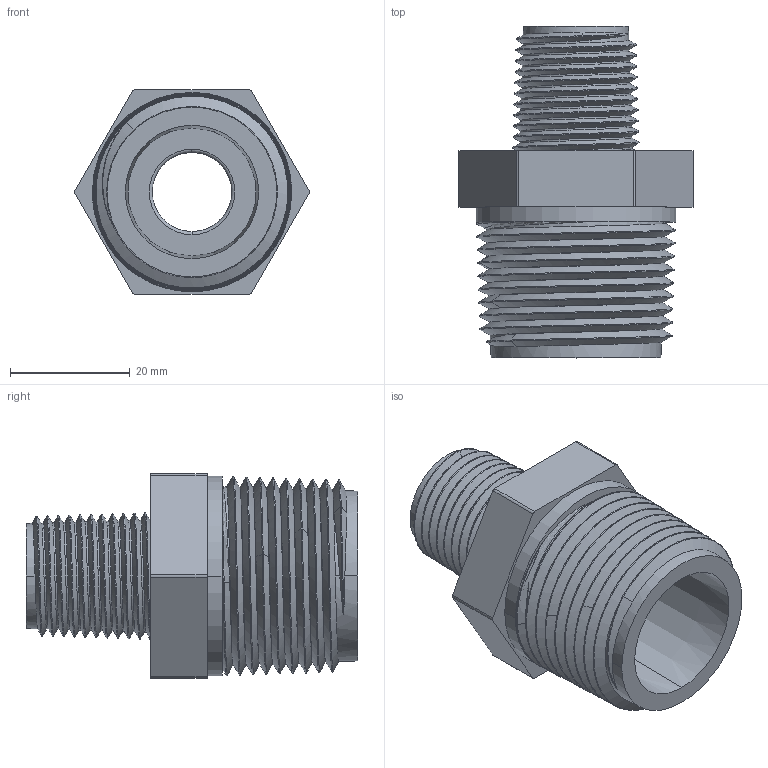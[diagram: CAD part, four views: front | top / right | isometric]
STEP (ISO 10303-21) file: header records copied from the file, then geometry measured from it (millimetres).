
FILE_DESCRIPTION(/* description */ ('Alibre Inc.'),/* implementation_level */ '2;1');
FILE_NAME(/* name */ 'export0',/* time_stamp */ '2019-10-08T10:38:30-04:00',/* author */ (''),/* organization */ (''),/* preprocessor_version */ 'ST-DEVELOPER v17',/* originating_system */ 'Alibre',/* authorisation */ '');
FILE_SCHEMA (('CONFIG_CONTROL_DESIGN'));
Length unit declared in the file: inch
Products named in the file (1): 200-62456-1000C
Bounding box: 39.25 x 55.45 x 34.12 mm (x, y, z)
Volume: 20550.7 mm3; surface area: 11981.4 mm2
Topology: 1 solids, 1 shells, 93 faces, 248 edges, 158 vertices
Faces by surface type: cone 44, bspline 27, plane 12, cylinder 8, torus 2
Entity records: 22520 total; most frequent: CARTESIAN_POINT 20705, ORIENTED_EDGE 490, EDGE_CURVE 245, DIRECTION 166, VERTEX_POINT 158, B_SPLINE_CURVE_WITH_KNOTS 148, EDGE_LOOP 99, FACE_BOUND 99
